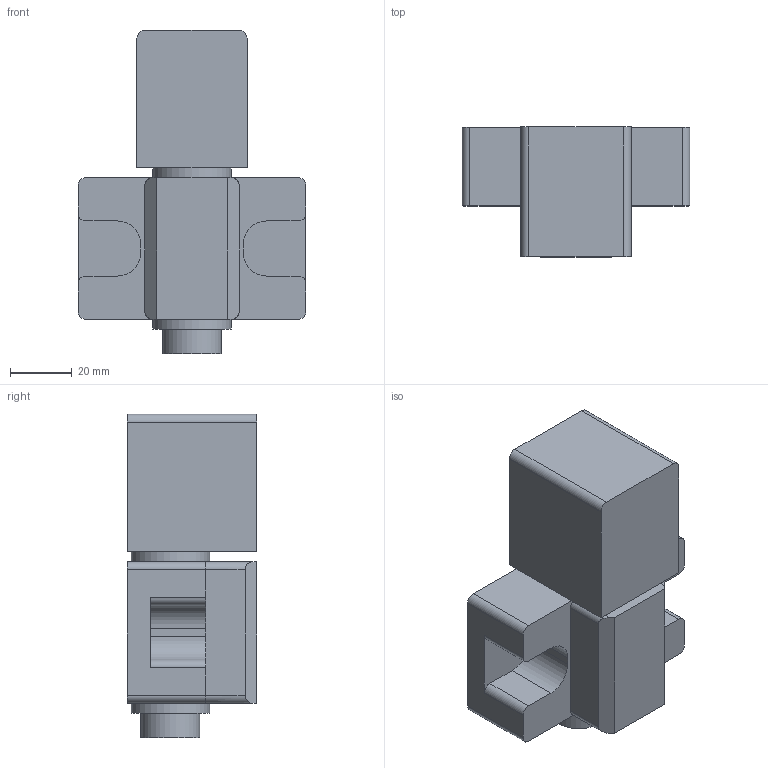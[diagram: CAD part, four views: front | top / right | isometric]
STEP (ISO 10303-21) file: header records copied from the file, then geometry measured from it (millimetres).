
FILE_DESCRIPTION(/* description */ ('Alibre Inc.'),/* implementation_level */ '2;1');
FILE_NAME(/* name */ 'export0',/* time_stamp */ '2014-02-03T20:04:22-05:00',/* author */ (''),/* organization */ (''),/* preprocessor_version */ 'ST-DEVELOPER v14',/* originating_system */ 'Alibre',/* authorisation */ '');
FILE_SCHEMA (('AUTOMOTIVE_DESIGN'));
Length unit declared in the file: centimetre
Bounding box: 73.66 x 41.91 x 104.46 mm (x, y, z)
Volume: 163283.9 mm3; surface area: 28910.4 mm2
Topology: 1 solids, 1 shells, 72 faces, 171 edges, 114 vertices
Faces by surface type: plane 43, cylinder 29
Full cylindrical faces by diameter (mm): 4.978 x8, 19.05 x1, 25.4 x2
Entity records: 2002 total; most frequent: CARTESIAN_POINT 344, ORIENTED_EDGE 320, DIRECTION 317, EDGE_CURVE 160, AXIS2_PLACEMENT_3D 130, VERTEX_POINT 114, VECTOR 100, LINE 100
